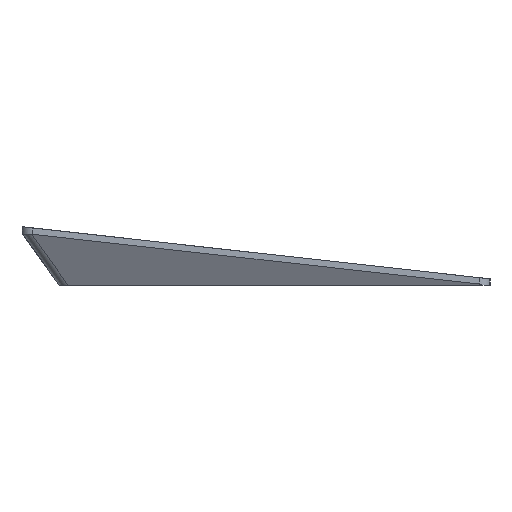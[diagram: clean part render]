
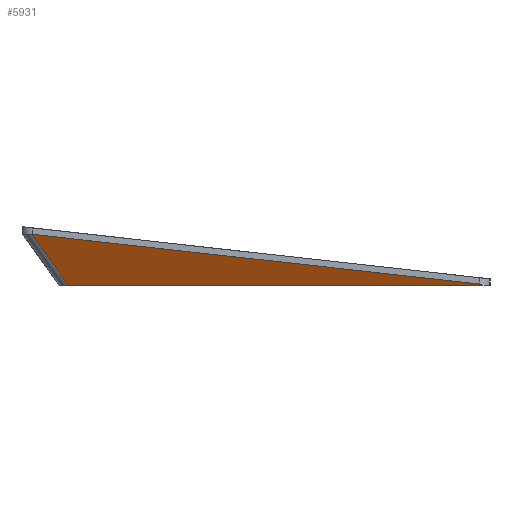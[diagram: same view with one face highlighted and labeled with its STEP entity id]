
A CAD part, left-side view. The second image highlights one B-rep face of the part: STEP entity #5931.
In plain terms, the highlighted planar face has unit normal (-0.879, 0.053, -0.475).
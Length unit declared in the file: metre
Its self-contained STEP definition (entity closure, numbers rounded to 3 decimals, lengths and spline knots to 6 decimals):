
#204=ELLIPSE('',#6370,0.004214,0.002);
#205=ELLIPSE('',#6371,0.004214,0.002);
#901=ORIENTED_EDGE('',*,*,#2695,.T.);
#902=ORIENTED_EDGE('',*,*,#2696,.T.);
#903=ORIENTED_EDGE('',*,*,#2678,.F.);
#904=ORIENTED_EDGE('',*,*,#2697,.T.);
#905=ORIENTED_EDGE('',*,*,#2686,.F.);
#2678=EDGE_CURVE('',#3577,#3578,#4022,.F.);
#2686=EDGE_CURVE('',#3583,#3584,#4026,.T.);
#2695=EDGE_CURVE('',#3583,#3587,#204,.T.);
#2696=EDGE_CURVE('',#3587,#3578,#4035,.F.);
#2697=EDGE_CURVE('',#3577,#3584,#205,.T.);
#3577=VERTEX_POINT('',#8710);
#3578=VERTEX_POINT('',#8711);
#3583=VERTEX_POINT('',#8724);
#3584=VERTEX_POINT('',#8726);
#3587=VERTEX_POINT('',#8742);
#4022=LINE('',#8709,#4560);
#4026=LINE('',#8725,#4564);
#4035=LINE('',#8743,#4573);
#4560=VECTOR('',#6952,1.);
#4564=VECTOR('',#6966,1.);
#4573=VECTOR('',#6985,1.);
#4999=EDGE_LOOP('',(#901,#902,#903,#904,#905));
#5401=FACE_BOUND('',#4999,.T.);
#5767=PLANE('',#6369);
#5931=ADVANCED_FACE('',(#5401),#5767,.T.);
#6369=AXIS2_PLACEMENT_3D('',#8740,#6981,#6982);
#6370=AXIS2_PLACEMENT_3D('',#8741,#6983,#6984);
#6371=AXIS2_PLACEMENT_3D('',#8744,#6986,#6987);
#6952=DIRECTION('',(-0.06,-0.998,0.));
#6966=DIRECTION('',(0.,-0.994,-0.111));
#6981=DIRECTION('',(-0.879,0.053,-0.475));
#6982=DIRECTION('',(0.,0.994,0.111));
#6983=DIRECTION('',(-0.879,0.053,-0.475));
#6984=DIRECTION('',(-0.474,0.028,0.88));
#6985=DIRECTION('',(-0.375,0.539,0.754));
#6986=DIRECTION('',(-0.879,0.053,-0.475));
#6987=DIRECTION('',(0.474,-0.028,-0.88));
#8709=CARTESIAN_POINT('',(-0.151306,0.009101,0.));
#8710=CARTESIAN_POINT('',(-0.154414,-0.042579,0.));
#8711=CARTESIAN_POINT('',(-0.149728,0.035326,0.));
#8724=CARTESIAN_POINT('',(-0.1545,0.042,0.009577));
#8725=CARTESIAN_POINT('',(-0.1545,0.,0.0049));
#8726=CARTESIAN_POINT('',(-0.1545,-0.042,0.000223));
#8740=CARTESIAN_POINT('',(-0.1545,0.,0.0049));
#8741=CARTESIAN_POINT('',(-0.1525,0.042,0.005875));
#8742=CARTESIAN_POINT('',(-0.154493,0.042171,0.009583));
#8743=CARTESIAN_POINT('',(-0.150053,0.035792,0.000652));
#8744=CARTESIAN_POINT('',(-0.1525,-0.042,-0.00348));
